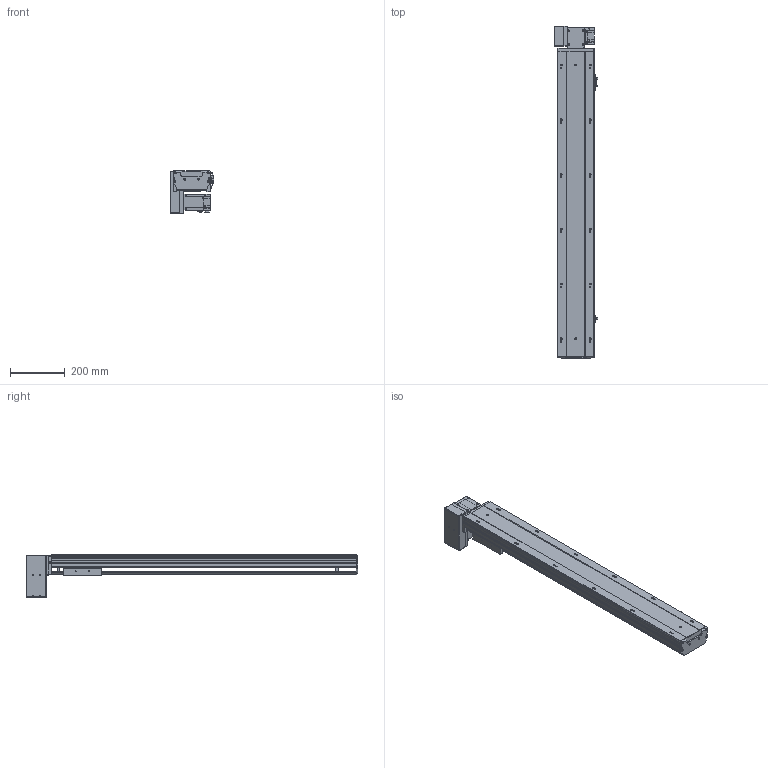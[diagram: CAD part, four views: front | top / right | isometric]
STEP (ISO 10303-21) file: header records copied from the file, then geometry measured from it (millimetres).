
FILE_DESCRIPTION (( 'STEP AP203' ), '1' );
FILE_NAME ('85.STEP', '2022-07-21T11:53:02', ( '' ), ( '' ), 'SwSTEP 2.0', 'SolidWorks 2016', '' );
FILE_SCHEMA (( 'CONFIG_CONTROL_DESIGN' ));
Length unit declared in the file: millimetre
Products named in the file (10): BTB14-L-23; BTB14-L-M40; 85; BTB14-L-菁釱_XD; BTB14-L-HZ; BTB14-L-04; BTB14-L-24; BTB14-L-01; BTB14-L-06; BTB14-L-02
Assembly tree (12 placements, depth 2):
  85
    BTB14-L-菁釱_XD
    BTB14-L-01
    BTB14-L-02
    BTB14-L-04  x3
    BTB14-L-06
    BTB14-L-23  x2
    BTB14-L-24
    BTB14-L-HZ
    BTB14-L-M40
Bounding box: 160.7 x 1212.5 x 156.7 mm (x, y, z)
Volume: 5673414.1 mm3; surface area: 1208481.8 mm2
Topology: 22 solids, 22 shells, 1606 faces, 4245 edges, 2710 vertices
Faces by surface type: plane 937, cylinder 456, cone 124, bspline 77, torus 12
Entity records: 42554 total; most frequent: CARTESIAN_POINT 10541, ORIENTED_EDGE 6412, DIRECTION 6352, EDGE_CURVE 3206, VECTOR 2194, LINE 2194, VERTEX_POINT 2088, AXIS2_PLACEMENT_3D 2079
